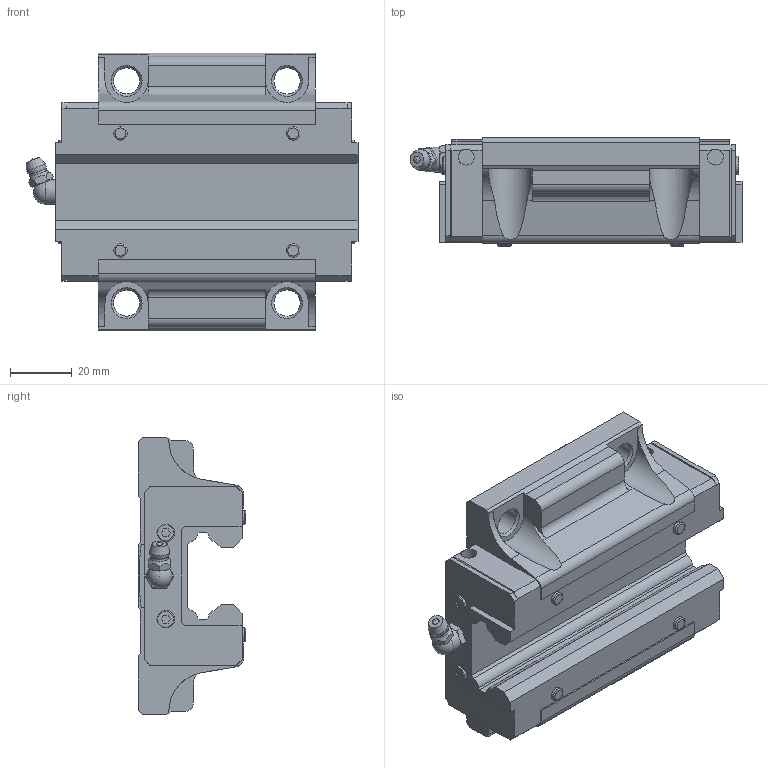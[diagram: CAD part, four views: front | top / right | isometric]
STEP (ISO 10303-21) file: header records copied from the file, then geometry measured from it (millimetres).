
FILE_DESCRIPTION(/* description */ ('STEP AP203'),/* implementation_level */ '2;1');
FILE_NAME(/* name */ 'HSR30C1SS(GK) BLOCK(1B-M6F)',/* time_stamp */ '2024-05-21T04:55:14+02:00',/* author */ ('License CC BY-ND 4.0'),/* organization */ ('CADENAS'),/* preprocessor_version */ 'ST-DEVELOPER v19.3',/* originating_system */ 'PARTsolutions',/* authorisation */ ' ');
FILE_SCHEMA (('CONFIG_CONTROL_DESIGN'));
Length unit declared in the file: millimetre
Products named in the file (3): HSR30C1SS(GK) BLOCK(1B-M6F); HSR30CSSB-M6F11 S; hsr_ftht_B-M6F_grease_nipple_joint
Assembly tree (2 placements, depth 2):
  HSR30C1SS(GK) BLOCK(1B-M6F)
    HSR30CSSB-M6F11 S
    hsr_ftht_B-M6F_grease_nipple_joint
Bounding box: 107.6 x 35 x 90 mm (x, y, z)
Volume: 176744.4 mm3; surface area: 32054.5 mm2
Topology: 2 solids, 2 shells, 270 faces, 722 edges, 471 vertices
Faces by surface type: plane 188, cylinder 48, cone 21, torus 10, sphere 3
Full cylindrical faces by diameter (mm): 4.37 x4, 4.917 x2, 5.2 x4, 5.7 x4, 6 x1, 6.2 x2, 8 x1, 8.5 x4
Entity records: 8093 total; most frequent: CARTESIAN_POINT 1538, ORIENTED_EDGE 1304, DIRECTION 1300, EDGE_CURVE 652, LINE 478, VECTOR 478, VERTEX_POINT 453, AXIS2_PLACEMENT_3D 411
